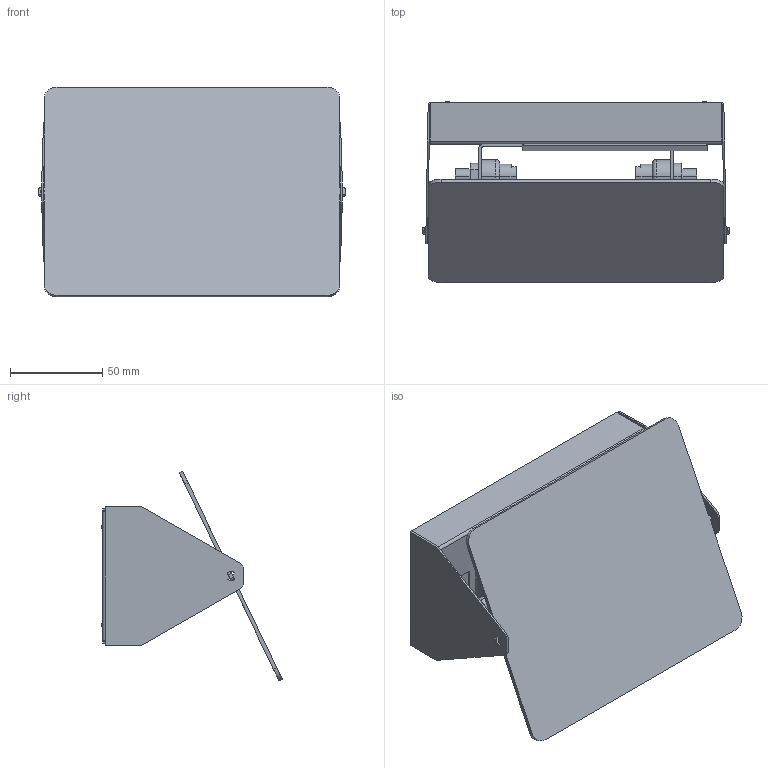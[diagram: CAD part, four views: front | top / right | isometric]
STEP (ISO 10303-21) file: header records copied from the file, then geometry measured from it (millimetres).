
FILE_DESCRIPTION (( 'STEP AP203' ), '1' );
FILE_NAME ('Nemo_applique a volet Pivotant R7s.STEP', '2012-11-12T10:07:12', ( '' ), ( '' ), 'SwSTEP 2.0', 'SolidWorks 2012', '' );
FILE_SCHEMA (( 'CONFIG_CONTROL_DESIGN' ));
Length unit declared in the file: millimetre
Products named in the file (9): Nemo_applique a volet Pivotant R7s; ptl emc a10-staffa122; ptl R7s EMC  A-10; SQUADRETTA_122; 010PIV700400_DefaultSviluppo; 010PIV700500; 010PIV700100; 010PIV700600; 010PIV700300
Assembly tree (10 placements, depth 3):
  Nemo_applique a volet Pivotant R7s
    010PIV700300
    010PIV700600
    010PIV700100
    010PIV700500  x2
    010PIV700400_DefaultSviluppo
    ptl emc a10-staffa122
      SQUADRETTA_122
      ptl R7s EMC  A-10  x2
Bounding box: 166 x 97.83 x 113.6 mm (x, y, z)
Volume: 98613.6 mm3; surface area: 142050.2 mm2
Topology: 9 solids, 9 shells, 337 faces, 842 edges, 538 vertices
Faces by surface type: plane 165, cylinder 144, cone 20, torus 8
Entity records: 9959 total; most frequent: DIRECTION 1644, CARTESIAN_POINT 1526, ORIENTED_EDGE 1484, EDGE_CURVE 742, AXIS2_PLACEMENT_3D 599, VERTEX_POINT 473, VECTOR 446, LINE 446
